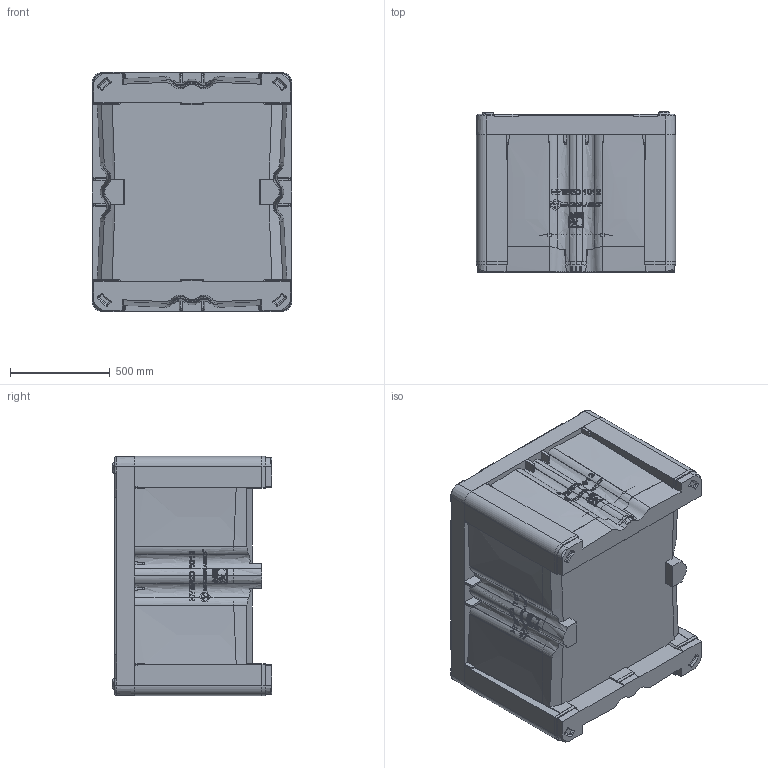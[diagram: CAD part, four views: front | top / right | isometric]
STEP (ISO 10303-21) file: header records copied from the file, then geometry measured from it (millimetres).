
FILE_DESCRIPTION (( 'STEP AP214' ), '1' );
FILE_NAME ('1110xxxxxxxx 1012-790 Hybrid Block ShortFoot 2way.STEP', '2018-08-24T20:46:07', ( '' ), ( '' ), 'SwSTEP 2.0', 'SolidWorks 2018', '' );
FILE_SCHEMA (( 'AUTOMOTIVE_DESIGN' ));
Products named in the file (1): 1110xxxxxxxx 1012-790 Hybrid Block ShortFoot 2way
Bounding box: 1000 x 802.5 x 1200 mm (x, y, z)
Volume: 120657992.9 mm3; surface area: 10162812.7 mm2
Topology: 7 solids, 7 shells, 6207 faces, 17082 edges, 11363 vertices
Faces by surface type: plane 3049, bspline 2664, cylinder 464, sphere 18, cone 8, torus 4
Entity records: 337663 total; most frequent: CARTESIAN_POINT 207170, ORIENTED_EDGE 34116, EDGE_CURVE 17058, DIRECTION 14448, VERTEX_POINT 11359, B_SPLINE_CURVE_WITH_KNOTS 9802, VECTOR 7040, LINE 7040
